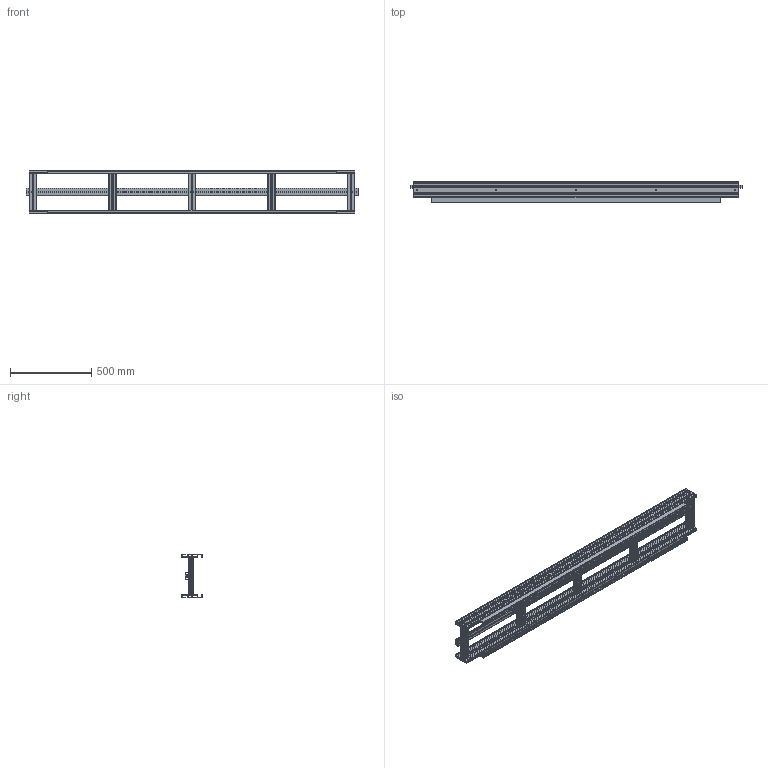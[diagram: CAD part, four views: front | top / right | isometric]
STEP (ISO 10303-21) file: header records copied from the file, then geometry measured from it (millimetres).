
FILE_DESCRIPTION (( 'STEP AP203' ), '1' );
FILE_NAME ('2000.1000.001.STEP', '2015-04-15T14:29:33', ( '' ), ( '' ), 'SwSTEP 2.0', 'SolidWorks 2012', '' );
FILE_SCHEMA (( 'CONFIG_CONTROL_DESIGN' ));
Length unit declared in the file: millimetre
Products named in the file (1): 2000.1000.001
Bounding box: 2038 x 134.24 x 270 mm (x, y, z)
Volume: 5078598.2 mm3; surface area: 3791480.8 mm2
Topology: 14 solids, 14 shells, 883 faces, 2556 edges, 1686 vertices
Faces by surface type: plane 519, cylinder 340, cone 24
Entity records: 30429 total; most frequent: CARTESIAN_POINT 6286, ORIENTED_EDGE 5112, DIRECTION 4948, EDGE_CURVE 2556, LINE 1812, VECTOR 1812, VERTEX_POINT 1686, AXIS2_PLACEMENT_3D 1568
